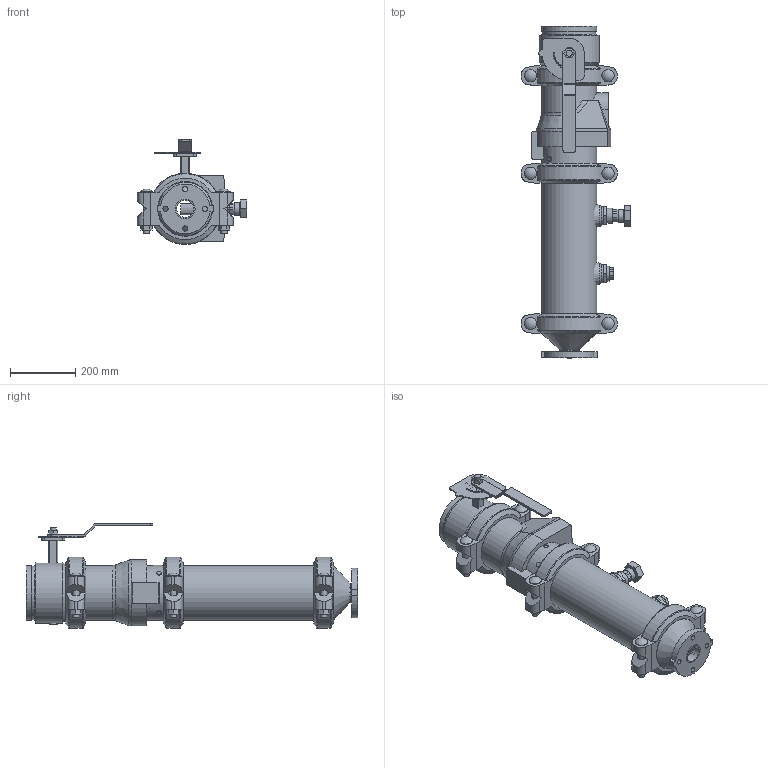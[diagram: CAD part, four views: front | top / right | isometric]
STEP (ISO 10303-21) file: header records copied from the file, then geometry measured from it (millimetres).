
FILE_DESCRIPTION(/* description */ ('VIC DVI PUMP DROP VERT S/380 (OGSxFLG) (S/924-1.25)','CAx-IF Rec.Pracs.---Representation and Presentation of Product Manufacturing Information (PMI)---4.0---2014-10-13'),/* implementation_level */ '2;1');
FILE_NAME(/* name */ 'C:\Users\Public\Documents\Victaulic.Temp\A765\Victaulic_IPS_Vertical DVI_CL 150_Series 380 (OGSxFLG)_924 (1.25)_06.0x02.0 (150x50).stp',/* time_stamp */ '2022-07-25T11:12:03+02:00',/* author */ ('Vjadhav'),/* organization */ ('Victaulic'),/* preprocessor_version */ 'ST-DEVELOPER v18',/* originating_system */ 'Autodesk Inventor 2020',/* authorisation */ '');
FILE_SCHEMA (('AP242_MANAGED_MODEL_BASED_3D_ENGINEERING_MIM_LF { 1 0 10303 442 1 1 4 }'));
Length unit declared in the file: inch
Products named in the file (9): 380_924 (1.25)-06.0x02.0; 741-02.0; 050-06.0x02.0; Pipe-06.0; 177N-06.0; 761-06.0; 779-06.0; 923-04.0x0.75; 924-04.0x01.25
Assembly tree (10 placements, depth 2):
  380_924 (1.25)-06.0x02.0
    741-02.0
    050-06.0x02.0
    177N-06.0  x3
    Pipe-06.0
    761-06.0
    779-06.0
    923-04.0x0.75
    924-04.0x01.25
Bounding box: 335.83 x 1019.17 x 322.07 mm (x, y, z)
Volume: 10543437.1 mm3; surface area: 1784431.1 mm2
Topology: 10 solids, 12 shells, 601 faces, 1561 edges, 1045 vertices
Faces by surface type: plane 356, cylinder 199, cone 20, torus 18, sphere 6, bspline 2
Full cylindrical faces by diameter (mm): 4.826 x10, 8.636 x4, 13.716 x4, 15.875 x4, 19.05 x8, 21.336 x1, 22.86 x1, 26.67 x2, 37.694 x6, 38.608 x1, 42.164 x1, 45.974 x4, 48.514 x1, 52.502 x1, 55.118 x1, 55.626 x2, 57.15 x1, 60.325 x3, 154.051 x4, 155.575 x3, 163.957 x7, 168.275 x19, 185.42 x1
Entity records: 14314 total; most frequent: CARTESIAN_POINT 2832, DIRECTION 2364, ORIENTED_EDGE 2150, EDGE_CURVE 1075, AXIS2_PLACEMENT_3D 895, VERTEX_POINT 725, LINE 574, VECTOR 574
